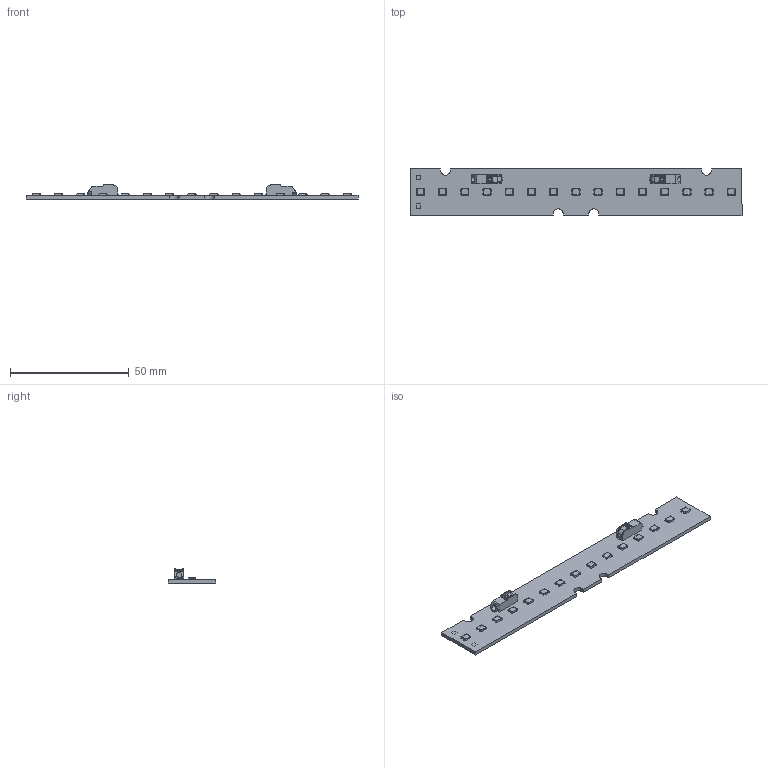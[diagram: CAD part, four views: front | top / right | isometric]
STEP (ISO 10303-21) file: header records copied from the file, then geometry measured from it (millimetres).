
FILE_DESCRIPTION (( 'STEP AP203' ), '1' );
FILE_NAME ('led_module LS20-140.STEP', '2018-07-04T07:50:42', ( '' ), ( '' ), 'SwSTEP 2.0', 'SolidWorks 2014', '' );
FILE_SCHEMA (( 'CONFIG_CONTROL_DESIGN' ));
Length unit declared in the file: millimetre
Products named in the file (4): led_module LS20-140; 75836B; 7800175; LM28xB Series_zippi_pieni
Assembly tree (18 placements, depth 2):
  led_module LS20-140
    75836B
    7800175  x2
    LM28xB Series_zippi_pieni  x15
Bounding box: 139.8 x 20 x 5.95 mm (x, y, z)
Volume: 4785.1 mm3; surface area: 7107.2 mm2
Topology: 18 solids, 18 shells, 1055 faces, 3074 edges, 2078 vertices
Faces by surface type: plane 721, cylinder 332, bspline 2
Entity records: 7082 total; most frequent: CARTESIAN_POINT 1501, ORIENTED_EDGE 1052, DIRECTION 908, EDGE_CURVE 526, VECTOR 374, LINE 374, VERTEX_POINT 352, AXIS2_PLACEMENT_3D 267
